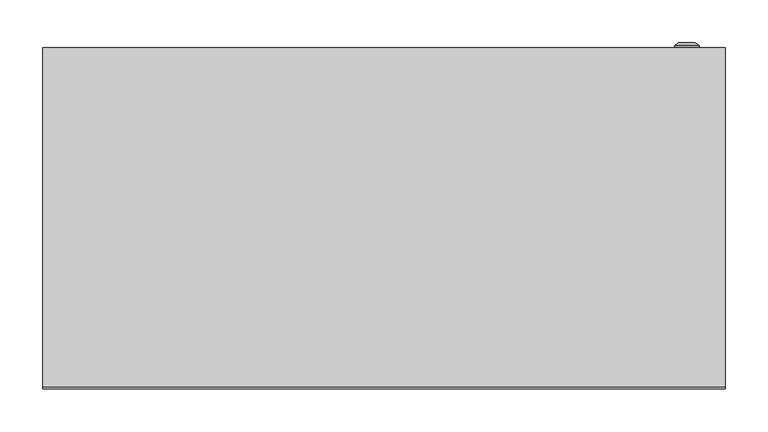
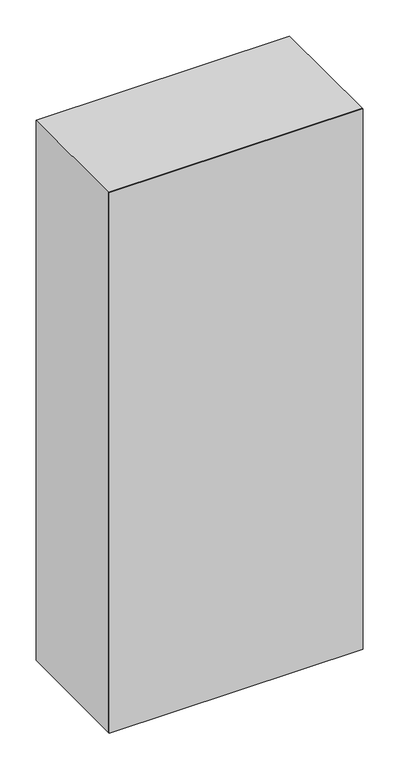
"""IFC4 building model written with IfcOpenShell, lengths in millimetres: proxy geometry, ЩМП : ЩМП-18.8.4-0_1800х800х400."""

from ifc_helpers import new_model, si_unit, frame, origin, origin_with_axes, place, context, project, spatial, polyline, circle_curve, outline, extrude, source, transform, mapped, element, save
from ifc_brep_helpers import plane_surface, cylinder_surface, revolved_surface, advanced_brep


def electrical_equipment_a90ce755(model_context):
    return source(origin(), model_context, "Body", "SolidModel", [
        advanced_brep(
        [(340.669873, 400.0, 900.0), (369.330127, 400.0, 900.0), (355.0, 400.0, 900.0), (340.669873, 402.366592, 900.0), (369.330127, 402.366592, 900.0), (345.0, 406.0, 900.0), (365.0, 406.0, 900.0), (353.1080471, 406.0, 900.0), (356.8919529, 406.0, 900.0), (353.1080471, 404.9822294, 900.0), (356.8919529, 404.9822294, 900.0), (355.0, 404.9822294, 900.0)],
        [
            (0, 1, circle_curve(frame((355.0, 400.0, 900.0), z_axis=(0.0, -1.0, 0.0), x_axis=(1.0, 0.0, 0.0)), 14.330127)),
            (1, 2),
            (2, 0),
            (1, 0, circle_curve(frame((355.0, 400.0, 900.0), z_axis=(0.0, -1.0, 0.0), x_axis=(1.0, 0.0, 0.0)), 14.330127)),
            (3, 4, circle_curve(frame((355.0, 402.366592, 900.0), z_axis=(0.0, -1.0, 0.0), x_axis=(1.0, 0.0, 0.0)), 14.330127)),
            (4, 1),
            (0, 3),
            (4, 3, circle_curve(frame((355.0, 402.366592, 900.0), z_axis=(0.0, -1.0, 0.0), x_axis=(1.0, 0.0, 0.0)), 14.330127)),
            (5, 6, circle_curve(frame((355.0, 406.0, 900.0), z_axis=(0.0, -1.0, 0.0), x_axis=(1.0, 0.0, 0.0)), 10.0)),
            (6, 4),
            (3, 5),
            (6, 5, circle_curve(frame((355.0, 406.0, 900.0), z_axis=(0.0, -1.0, 0.0), x_axis=(1.0, 0.0, 0.0)), 10.0)),
            (7, 8, circle_curve(frame((355.0, 406.0, 900.0), z_axis=(0.0, -1.0, 0.0), x_axis=(1.0, 0.0, 0.0)), 1.8919529)),
            (8, 6),
            (5, 7),
            (8, 7, circle_curve(frame((355.0, 406.0, 900.0), z_axis=(0.0, -1.0, 0.0), x_axis=(1.0, 0.0, 0.0)), 1.8919529)),
            (9, 10, circle_curve(frame((355.0, 404.9822294, 900.0), z_axis=(0.0, -1.0, 0.0), x_axis=(1.0, 0.0, 0.0)), 1.8919529)),
            (10, 8),
            (7, 9),
            (10, 9, circle_curve(frame((355.0, 404.9822294, 900.0), z_axis=(0.0, -1.0, 0.0), x_axis=(1.0, 0.0, 0.0)), 1.8919529)),
            (11, 10),
            (9, 11),
        ],
        [
            plane_surface(frame((355.0, 400.0, 900.0), z_axis=(0.0, -1.0, 0.0), x_axis=(1.0, 0.0, 0.0))),
            cylinder_surface(frame((355.0, 413.1348851, 900.0), z_axis=(0.0, 1.0, 0.0), x_axis=(1.0, 0.0, 0.0)), 14.330127),
            revolved_surface(polyline([(369.330127, 402.366592, 900.0), (365.0, 406.0, 900.0)]), (355.0, 413.1348851, 900.0), (0.0, 1.0, 0.0)),
            plane_surface(frame((355.0, 406.0, 900.0), z_axis=(0.0, 1.0, 0.0), x_axis=(1.0, 0.0, 0.0))),
            revolved_surface(polyline([(356.8919529, 406.0, 900.0), (356.8919529, 404.9822294, 900.0)]), (355.0, 413.1348851, 900.0), (0.0, 1.0, 0.0)),
            plane_surface(frame((355.0, 404.9822294, 900.0), z_axis=(0.0, 1.0, 0.0), x_axis=(1.0, 0.0, 0.0))),
        ],
        [
            (0, [[1, 2, 3]]),
            (0, [[4, -3, -2]]),
            (1, [[5, 6, -1, 7]]),
            (1, [[8, -7, -4, -6]]),
            (2, [[9, 10, -5, 11]]),
            (2, [[12, -11, -8, -10]]),
            (3, [[13, 14, -9, 15]]),
            (3, [[16, -15, -12, -14]]),
            (4, [[17, 18, -13, 19]]),
            (4, [[20, -19, -16, -18]]),
            (5, [[21, -17, 22]]),
            (5, [[-22, -20, -21]]),
        ],
    ),
        extrude(outline(polyline([(381.5, 375.0), (-381.5, 375.0), (-381.5, 400.0), (381.5, 400.0), (381.5, 375.0)])), frame((0.0, 0.0, 18.5), z_axis=(0.0, 0.0, 1.0), x_axis=(1.0, 0.0, 0.0)), (0.0, 0.0, 1.0), 1763.0),
        extrude(outline(polyline([(1800.0, -400.0033905), (0.0, -400.0033905), (0.0, 399.9966095), (1800.0, 399.9966095), (1800.0, -400.0033905)]), holes=[polyline([(1765.0, -365.0033905), (1765.0, 364.9966095), (35.0, 364.9966095), (35.0, -365.0033905), (1765.0, -365.0033905)])]), frame((0.0, 2.0, 0.0), z_axis=(0.0, 1.0, 0.0), x_axis=(0.0, 0.0, 1.0)), (0.0, 0.0, 1.0), 398.0),
        extrude(outline(polyline([(400.0, 0.0), (-400.0, 0.0), (-400.0, 2.0), (400.0, 2.0), (400.0, 0.0)])), origin_with_axes(), (0.0, 0.0, 1.0), 1800.0),
    ])


if __name__ == "__main__":
    model = new_model("IFC4")
    model_context = context("Model", 3, world=origin())
    ifc_project = project(units=[si_unit("LENGTHUNIT", "METRE", prefix="MILLI")], contexts=[model_context])
    site = spatial("IfcSite", under=ifc_project)
    building = spatial("IfcBuilding", under=site)
    placement = place(None, origin())
    electrical_equipment_shape = electrical_equipment_a90ce755(model_context)
    element("IfcBuildingElementProxy", 1, Name="ЩМП : ЩМП-18.8.4-0_1800х800х400", ObjectType="ЩМП : ЩМП-18.8.4-0_1800х800х400", at=placement, inside=building, context=model_context, shape_type="MappedRepresentation", body=[
        mapped(electrical_equipment_shape, transform((0.0, 0.0, 0.0), x_axis=(1.0, 0.0, 0.0), y_axis=(0.0, 1.0, 0.0), z_axis=(0.0, 0.0, 1.0))),
    ])
    save(model, "model.ifc")
